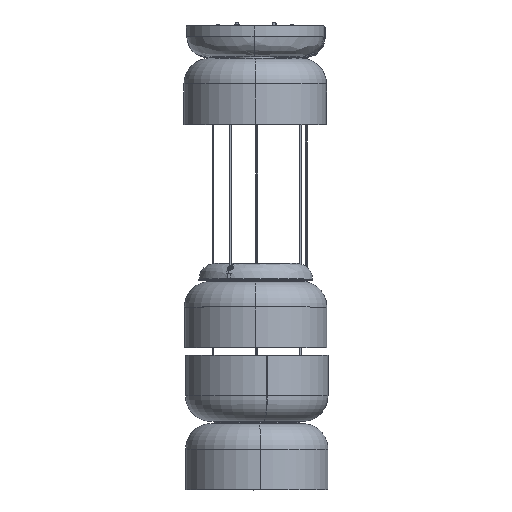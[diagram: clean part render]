
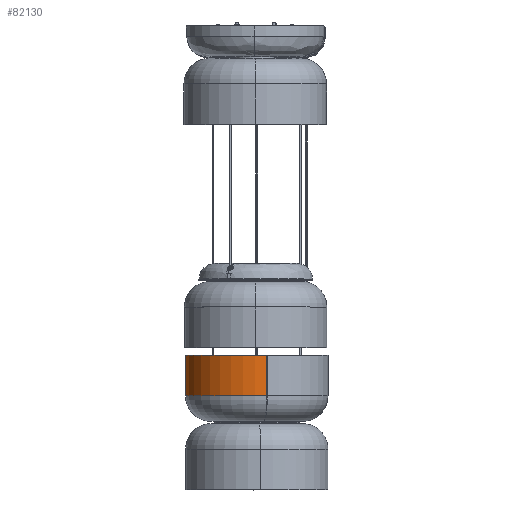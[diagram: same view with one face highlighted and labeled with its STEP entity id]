
A CAD part, top view. The second image highlights one B-rep face of the part: STEP entity #82130.
In plain terms, the highlighted cylindrical face has radius 88.9 mm (diameter 177.8 mm), a partial arc.
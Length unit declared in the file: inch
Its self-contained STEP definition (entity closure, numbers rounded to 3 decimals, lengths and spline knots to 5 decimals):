
#1935 = CARTESIAN_POINT ( 'NONE',  ( 0., 1.25, 0. ) ) ;
#11420 = ORIENTED_EDGE ( 'NONE', *, *, #103544, .T. ) ;
#15377 = VERTEX_POINT ( 'NONE', #23211 ) ;
#23211 = CARTESIAN_POINT ( 'NONE',  ( 0., 1.25, 3.5 ) ) ;
#24215 = VERTEX_POINT ( 'NONE', #33547 ) ;
#26123 = ORIENTED_EDGE ( 'NONE', *, *, #151168, .F. ) ;
#30510 = DIRECTION ( 'NONE',  ( 0., 1., 0. ) ) ;
#33547 = CARTESIAN_POINT ( 'NONE',  ( 0., 3.25, 3.5 ) ) ;
#43277 = DIRECTION ( 'NONE',  ( 0., 0., 1. ) ) ;
#57692 = DIRECTION ( 'NONE',  ( 0., 1., 0. ) ) ;
#69610 = CARTESIAN_POINT ( 'NONE',  ( 0., 0., 0. ) ) ;
#70396 = VERTEX_POINT ( 'NONE', #229685 ) ;
#75781 = CARTESIAN_POINT ( 'NONE',  ( 0., 0., 3.5 ) ) ;
#82130 = ADVANCED_FACE ( 'NONE', ( #250571 ), #226883, .T. ) ;
#92373 = AXIS2_PLACEMENT_3D ( 'NONE', #69610, #224262, #43277 ) ;
#99411 = CIRCLE ( 'NONE', #229992, 3.5 ) ;
#100133 = LINE ( 'NONE', #257085, #244325 ) ;
#102107 = CARTESIAN_POINT ( 'NONE',  ( 0., 1.25, -3.5 ) ) ;
#103544 = EDGE_CURVE ( 'NONE', #15377, #24215, #135369, .T. ) ;
#106440 = DIRECTION ( 'NONE',  ( 0., 0., 1. ) ) ;
#111030 = CIRCLE ( 'NONE', #190976, 3.5 ) ;
#114786 = VECTOR ( 'NONE', #259238, 39.37008 ) ;
#122350 = DIRECTION ( 'NONE',  ( 0., -1., 0. ) ) ;
#135369 = LINE ( 'NONE', #75781, #114786 ) ;
#151168 = EDGE_CURVE ( 'NONE', #70396, #24215, #111030, .T. ) ;
#153797 = ORIENTED_EDGE ( 'NONE', *, *, #187474, .F. ) ;
#159563 = EDGE_LOOP ( 'NONE', ( #153797, #207241, #11420, #26123 ) ) ;
#187474 = EDGE_CURVE ( 'NONE', #234963, #70396, #100133, .T. ) ;
#190976 = AXIS2_PLACEMENT_3D ( 'NONE', #211421, #30510, #232574 ) ;
#200453 = EDGE_CURVE ( 'NONE', #15377, #234963, #99411, .T. ) ;
#207241 = ORIENTED_EDGE ( 'NONE', *, *, #200453, .F. ) ;
#211421 = CARTESIAN_POINT ( 'NONE',  ( 0., 3.25, 0. ) ) ;
#224262 = DIRECTION ( 'NONE',  ( 0., 1., 0. ) ) ;
#226883 = CYLINDRICAL_SURFACE ( 'NONE', #92373, 3.5 ) ;
#229685 = CARTESIAN_POINT ( 'NONE',  ( 0., 3.25, -3.5 ) ) ;
#229992 = AXIS2_PLACEMENT_3D ( 'NONE', #1935, #122350, #106440 ) ;
#232574 = DIRECTION ( 'NONE',  ( 0., 0., 1. ) ) ;
#234963 = VERTEX_POINT ( 'NONE', #102107 ) ;
#244325 = VECTOR ( 'NONE', #57692, 39.37008 ) ;
#250571 = FACE_OUTER_BOUND ( 'NONE', #159563, .T. ) ;
#257085 = CARTESIAN_POINT ( 'NONE',  ( 0., 0., -3.5 ) ) ;
#259238 = DIRECTION ( 'NONE',  ( 0., 1., 0. ) ) ;
